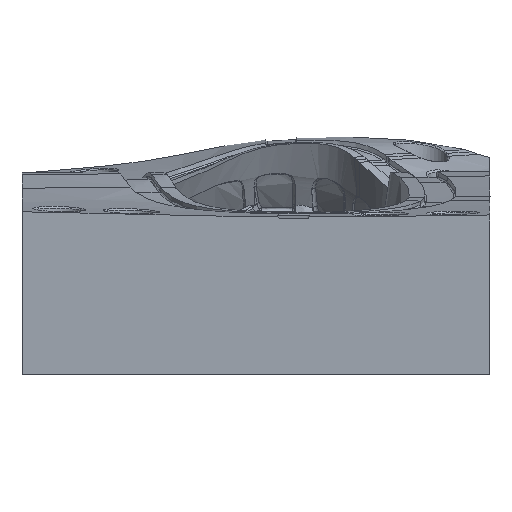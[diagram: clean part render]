
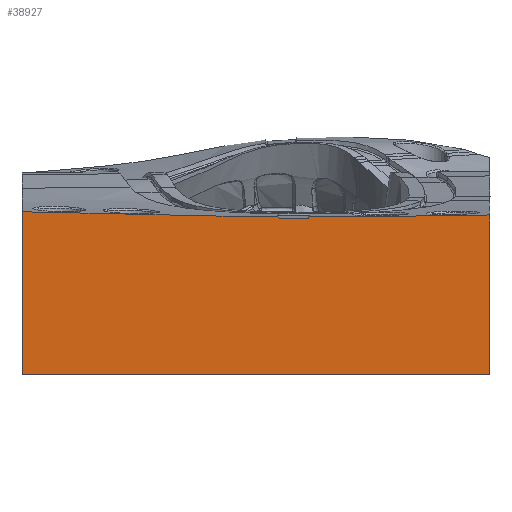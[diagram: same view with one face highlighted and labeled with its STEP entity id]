
A CAD part, left-side view. The second image highlights one B-rep face of the part: STEP entity #38927.
In plain terms, the highlighted planar face has unit normal (-0.999, 0, -0.053) by its records, which use the part's own axes.
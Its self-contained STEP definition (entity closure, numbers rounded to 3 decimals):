
#1513=CIRCLE('',#41455,0.5);
#2540=PLANE('',#41454);
#3183=LINE('',#48862,#3962);
#3184=LINE('',#48864,#3963);
#3185=LINE('',#48866,#3964);
#3962=VECTOR('',#43416,1000.);
#3963=VECTOR('',#43417,1000.);
#3964=VECTOR('',#43418,1000.);
#4787=ORIENTED_EDGE('',*,*,#17921,.F.);
#4788=ORIENTED_EDGE('',*,*,#17961,.T.);
#4789=ORIENTED_EDGE('',*,*,#17962,.F.);
#4790=ORIENTED_EDGE('',*,*,#17963,.T.);
#4791=ORIENTED_EDGE('',*,*,#17912,.F.);
#4792=ORIENTED_EDGE('',*,*,#17964,.T.);
#4793=ORIENTED_EDGE('',*,*,#17965,.T.);
#4794=ORIENTED_EDGE('',*,*,#17966,.F.);
#17912=EDGE_CURVE('',#24502,#24503,#28606,.T.);
#17921=EDGE_CURVE('',#24511,#24512,#28614,.T.);
#17961=EDGE_CURVE('',#24511,#24545,#1513,.T.);
#17962=EDGE_CURVE('',#24546,#24545,#28645,.T.);
#17963=EDGE_CURVE('',#24546,#24503,#28646,.T.);
#17964=EDGE_CURVE('',#24502,#24547,#3183,.T.);
#17965=EDGE_CURVE('',#24547,#24548,#3184,.T.);
#17966=EDGE_CURVE('',#24512,#24548,#3185,.T.);
#24502=VERTEX_POINT('',#48147);
#24503=VERTEX_POINT('',#48148);
#24511=VERTEX_POINT('',#48285);
#24512=VERTEX_POINT('',#48292);
#24545=VERTEX_POINT('',#48852);
#24546=VERTEX_POINT('',#48857);
#24547=VERTEX_POINT('',#48863);
#24548=VERTEX_POINT('',#48865);
#28606=B_SPLINE_CURVE_WITH_KNOTS('',3,(#48142,#48143,#48144,#48145,#48146),
 .UNSPECIFIED.,.F.,.F.,(4,1,4),(0.,0.041,0.082),
 .UNSPECIFIED.);
#28614=B_SPLINE_CURVE_WITH_KNOTS('',3,(#48286,#48287,#48288,#48289,#48290,
#48291),.UNSPECIFIED.,.F.,.F.,(4,1,1,4),(0.092,0.107,
0.121,0.15),.UNSPECIFIED.);
#28645=B_SPLINE_CURVE_WITH_KNOTS('',3,(#48853,#48854,#48855,#48856),
 .UNSPECIFIED.,.F.,.F.,(4,4),(0.001,0.01),
 .UNSPECIFIED.);
#28646=B_SPLINE_CURVE_WITH_KNOTS('',3,(#48858,#48859,#48860,#48861),
 .UNSPECIFIED.,.F.,.F.,(4,4),(0.,0.001),.UNSPECIFIED.);
#33358=EDGE_LOOP('',(#4787,#4788,#4789,#4790,#4791,#4792,#4793,#4794));
#35924=FACE_BOUND('',#33358,.T.);
#38927=ADVANCED_FACE('',(#35924),#2540,.F.);
#41454=AXIS2_PLACEMENT_3D('',#48850,#43412,#43413);
#41455=AXIS2_PLACEMENT_3D('',#48851,#43414,#43415);
#43412=DIRECTION('',(0.999,0.,0.053));
#43413=DIRECTION('',(0.053,0.,-0.999));
#43414=DIRECTION('',(0.999,0.,0.053));
#43415=DIRECTION('',(0.053,0.,-0.999));
#43416=DIRECTION('',(0.053,0.,-0.999));
#43417=DIRECTION('',(0.,-1.,0.));
#43418=DIRECTION('',(0.053,0.,-0.999));
#48142=CARTESIAN_POINT('',(-69.631,91.069,14.354));
#48143=CARTESIAN_POINT('',(-69.618,77.402,14.099));
#48144=CARTESIAN_POINT('',(-69.584,50.071,13.466));
#48145=CARTESIAN_POINT('',(-69.551,22.739,12.84));
#48146=CARTESIAN_POINT('',(-69.545,9.069,12.731));
#48147=CARTESIAN_POINT('',(-69.631,91.069,14.354));
#48148=CARTESIAN_POINT('',(-69.545,9.069,12.731));
#48285=CARTESIAN_POINT('',(-69.543,-0.931,12.695));
#48286=CARTESIAN_POINT('',(-69.543,-0.931,12.695));
#48287=CARTESIAN_POINT('',(-69.543,-5.764,12.698));
#48288=CARTESIAN_POINT('',(-69.547,-15.431,12.776));
#48289=CARTESIAN_POINT('',(-69.559,-34.765,12.989));
#48290=CARTESIAN_POINT('',(-69.57,-49.264,13.2));
#48291=CARTESIAN_POINT('',(-69.577,-58.931,13.34));
#48292=CARTESIAN_POINT('',(-69.577,-58.931,13.34));
#48850=CARTESIAN_POINT('',(-70.567,91.069,32.));
#48851=CARTESIAN_POINT('',(-69.543,-0.431,12.695));
#48852=CARTESIAN_POINT('',(-69.517,-0.431,12.195));
#48853=CARTESIAN_POINT('',(-69.518,8.573,12.228));
#48854=CARTESIAN_POINT('',(-69.517,5.572,12.205));
#48855=CARTESIAN_POINT('',(-69.517,2.57,12.194));
#48856=CARTESIAN_POINT('',(-69.517,-0.431,12.195));
#48857=CARTESIAN_POINT('',(-69.518,8.573,12.228));
#48858=CARTESIAN_POINT('',(-69.518,8.573,12.228));
#48859=CARTESIAN_POINT('',(-69.519,8.837,12.23));
#48860=CARTESIAN_POINT('',(-69.531,9.071,12.467));
#48861=CARTESIAN_POINT('',(-69.545,9.069,12.731));
#48862=CARTESIAN_POINT('',(-70.567,91.069,32.));
#48863=CARTESIAN_POINT('',(-66.861,91.069,-37.902));
#48864=CARTESIAN_POINT('',(-66.861,91.069,-37.902));
#48865=CARTESIAN_POINT('',(-66.861,-58.931,-37.902));
#48866=CARTESIAN_POINT('',(-70.567,-58.931,32.));
